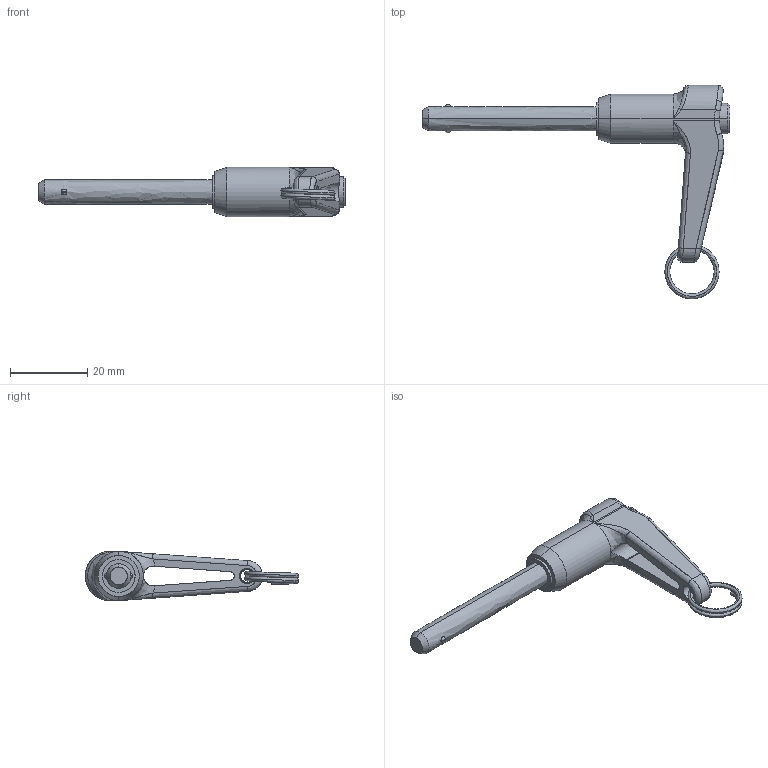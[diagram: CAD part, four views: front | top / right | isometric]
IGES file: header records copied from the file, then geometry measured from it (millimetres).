
Start section: SolidWorks IGES file using analytic representation for surfaces
Global section: file name: C:\Documents and Settings\IANO\My Documents\Wix and Auto CAD Work\CAD Models\Parametric Models\Wix Models\30000\33620_v2\33620_v2_20160606_IGES\33620.B015.igs; native system: SolidWorks 2009; preprocessor: SolidWorks 2009; author: IANO; date: 160615.125659; units: inch
Bounding box: 79.34 x 55.09 x 12.7 mm (x, y, z)
Surface area: 5597.2 mm2 (no closed solid volume)
Topology: 0 solids, 0 shells, 83 faces, 1170 edges, 1168 vertices
Faces by surface type: bspline 53, revolution 30
